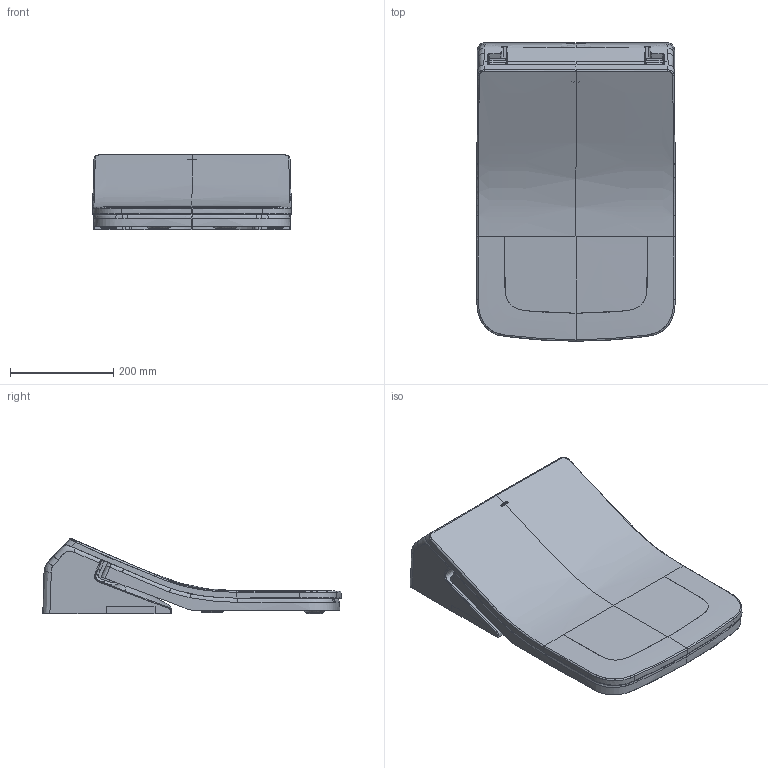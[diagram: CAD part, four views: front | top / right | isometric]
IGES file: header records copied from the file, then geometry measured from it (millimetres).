
Start section:  PTC IGES file: tcf796cg-web.igs
Global section: file name: tcf796cg-web.igs; native system: Creo Parametric by PTC Inc.; preprocessor: 2017380; author: Uporabnik; organization: Unknown; date: 20180807.143155; units: millimetre
Bounding box: 386.2 x 579.04 x 146.23 mm (x, y, z)
Surface area: 837007.4 mm2 (no closed solid volume)
Topology: 0 solids, 0 shells, 434 faces, 2292 edges, 2290 vertices
Faces by surface type: bspline 300, revolution 87, extrusion 47
